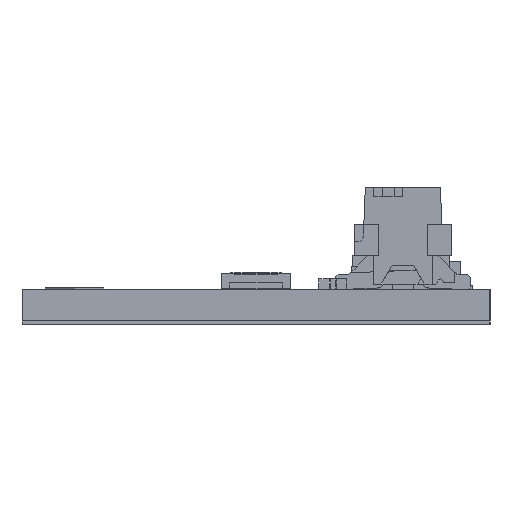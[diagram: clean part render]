
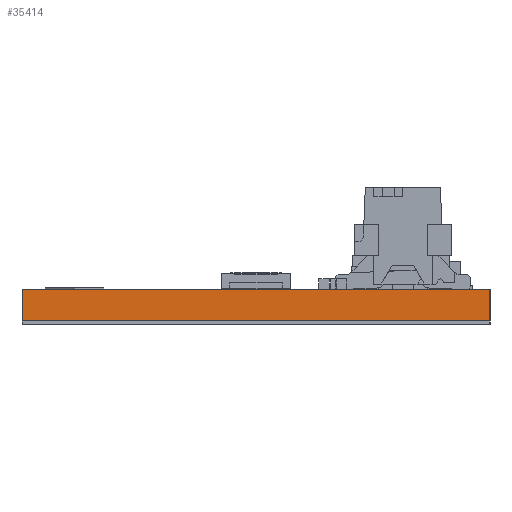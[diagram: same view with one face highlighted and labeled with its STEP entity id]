
A CAD part, left-side view. The second image highlights one B-rep face of the part: STEP entity #35414.
In plain terms, the highlighted planar face has unit normal (-1, 0, 0).
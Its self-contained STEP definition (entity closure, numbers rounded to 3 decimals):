
#24 = DIRECTION ( 'NONE',  ( 0., 1., 0. ) ) ;
#2450 = VERTEX_POINT ( 'NONE', #59173 ) ;
#5879 = ORIENTED_EDGE ( 'NONE', *, *, #16222, .F. ) ;
#7215 = CARTESIAN_POINT ( 'NONE',  ( -140., -12., 1.6 ) ) ;
#7661 = DIRECTION ( 'NONE',  ( 0., 1., 0. ) ) ;
#8702 = CARTESIAN_POINT ( 'NONE',  ( -140., 12., 1.6 ) ) ;
#13607 = CARTESIAN_POINT ( 'NONE',  ( -140., -12., 1.6 ) ) ;
#14815 = LINE ( 'NONE', #8702, #62090 ) ;
#16053 = VECTOR ( 'NONE', #7661, 1000. ) ;
#16222 = EDGE_CURVE ( 'NONE', #53230, #43059, #71236, .T. ) ;
#19865 = EDGE_LOOP ( 'NONE', ( #28205, #5879, #45988, #76376 ) ) ;
#21885 = LINE ( 'NONE', #13607, #16053 ) ;
#28205 = ORIENTED_EDGE ( 'NONE', *, *, #75829, .F. ) ;
#28669 = PLANE ( 'NONE',  #46990 ) ;
#31502 = EDGE_CURVE ( 'NONE', #54554, #2450, #14815, .T. ) ;
#34588 = DIRECTION ( 'NONE',  ( -1., 0., 0. ) ) ;
#34869 = DIRECTION ( 'NONE',  ( 0., 0., 1. ) ) ;
#35414 = ADVANCED_FACE ( 'NONE', ( #65427 ), #28669, .T. ) ;
#36965 = CARTESIAN_POINT ( 'NONE',  ( -140., -12., 0. ) ) ;
#39725 = DIRECTION ( 'NONE',  ( 0., 0., -1. ) ) ;
#40857 = VECTOR ( 'NONE', #24, 1000. ) ;
#43059 = VERTEX_POINT ( 'NONE', #43305 ) ;
#43305 = CARTESIAN_POINT ( 'NONE',  ( -140., -12., 0. ) ) ;
#45988 = ORIENTED_EDGE ( 'NONE', *, *, #53925, .T. ) ;
#46990 = AXIS2_PLACEMENT_3D ( 'NONE', #59352, #34588, #34869 ) ;
#47720 = CARTESIAN_POINT ( 'NONE',  ( -140., -12., 1.6 ) ) ;
#50674 = CARTESIAN_POINT ( 'NONE',  ( -140., 12., 1.6 ) ) ;
#53230 = VERTEX_POINT ( 'NONE', #7215 ) ;
#53925 = EDGE_CURVE ( 'NONE', #53230, #54554, #21885, .T. ) ;
#54554 = VERTEX_POINT ( 'NONE', #50674 ) ;
#54813 = VECTOR ( 'NONE', #72512, 1000. ) ;
#57237 = LINE ( 'NONE', #36965, #40857 ) ;
#59173 = CARTESIAN_POINT ( 'NONE',  ( -140., 12., 0. ) ) ;
#59352 = CARTESIAN_POINT ( 'NONE',  ( -140., -12., 1.6 ) ) ;
#62090 = VECTOR ( 'NONE', #39725, 1000. ) ;
#65427 = FACE_OUTER_BOUND ( 'NONE', #19865, .T. ) ;
#71236 = LINE ( 'NONE', #47720, #54813 ) ;
#72512 = DIRECTION ( 'NONE',  ( 0., 0., -1. ) ) ;
#75829 = EDGE_CURVE ( 'NONE', #43059, #2450, #57237, .T. ) ;
#76376 = ORIENTED_EDGE ( 'NONE', *, *, #31502, .T. ) ;
